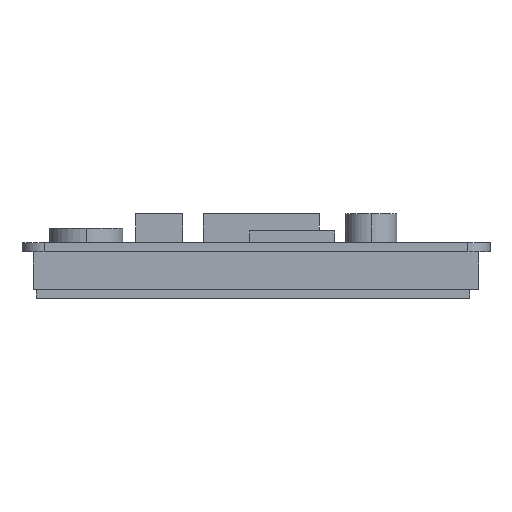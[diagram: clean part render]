
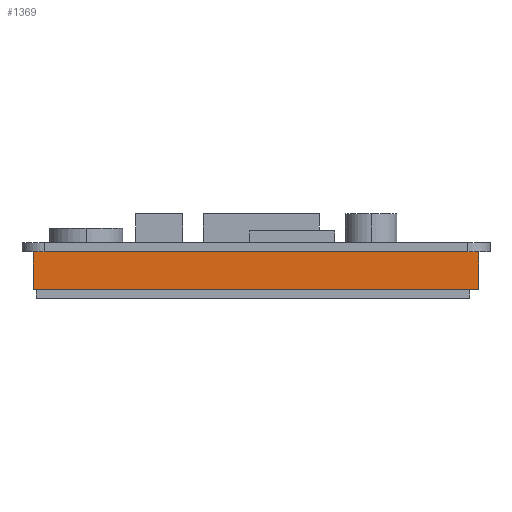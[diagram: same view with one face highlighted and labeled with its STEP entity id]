
A CAD part, left-side view. The second image highlights one B-rep face of the part: STEP entity #1369.
In plain terms, the highlighted planar face has unit normal (-1, 0, 0).
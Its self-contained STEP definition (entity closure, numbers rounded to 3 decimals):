
#27=DIRECTION('',(0.,1.,0.));
#28=VECTOR('',#27,76.9);
#29=CARTESIAN_POINT('',(10.744,2.099,-8.1));
#30=LINE('',#29,#28);
#55=DIRECTION('',(0.,0.,-1.));
#56=VECTOR('',#55,6.5);
#57=CARTESIAN_POINT('',(10.744,78.999,-1.6));
#58=LINE('',#57,#56);
#163=DIRECTION('',(0.,1.,0.));
#164=VECTOR('',#163,76.9);
#165=CARTESIAN_POINT('',(10.744,2.099,-1.6));
#166=LINE('',#165,#164);
#431=DIRECTION('',(0.,0.,-1.));
#432=VECTOR('',#431,6.5);
#433=CARTESIAN_POINT('',(10.744,2.099,-1.6));
#434=LINE('',#433,#432);
#787=CARTESIAN_POINT('',(10.744,78.999,-8.1));
#789=VERTEX_POINT('',#787);
#793=CARTESIAN_POINT('',(10.744,2.099,-8.1));
#794=VERTEX_POINT('',#793);
#795=CARTESIAN_POINT('',(10.744,78.999,-1.6));
#797=VERTEX_POINT('',#795);
#804=CARTESIAN_POINT('',(10.744,2.099,-1.6));
#806=VERTEX_POINT('',#804);
#1358=CARTESIAN_POINT('',(10.744,2.099,-1.6));
#1359=DIRECTION('',(-1.,0.,0.));
#1360=DIRECTION('',(0.,1.,0.));
#1361=AXIS2_PLACEMENT_3D('',#1358,#1359,#1360);
#1362=PLANE('',#1361);
#1363=ORIENTED_EDGE('',*,*,#918,.F.);
#1364=ORIENTED_EDGE('',*,*,#1339,.T.);
#1365=ORIENTED_EDGE('',*,*,#850,.T.);
#1366=ORIENTED_EDGE('',*,*,#876,.F.);
#1367=EDGE_LOOP('',(#1363,#1364,#1365,#1366));
#1368=FACE_OUTER_BOUND('',#1367,.F.);
#850=EDGE_CURVE('',#794,#789,#30,.T.);
#876=EDGE_CURVE('',#797,#789,#58,.T.);
#918=EDGE_CURVE('',#806,#797,#166,.T.);
#1339=EDGE_CURVE('',#806,#794,#434,.T.);
#1369=ADVANCED_FACE('',(#1368),#1362,.T.);
